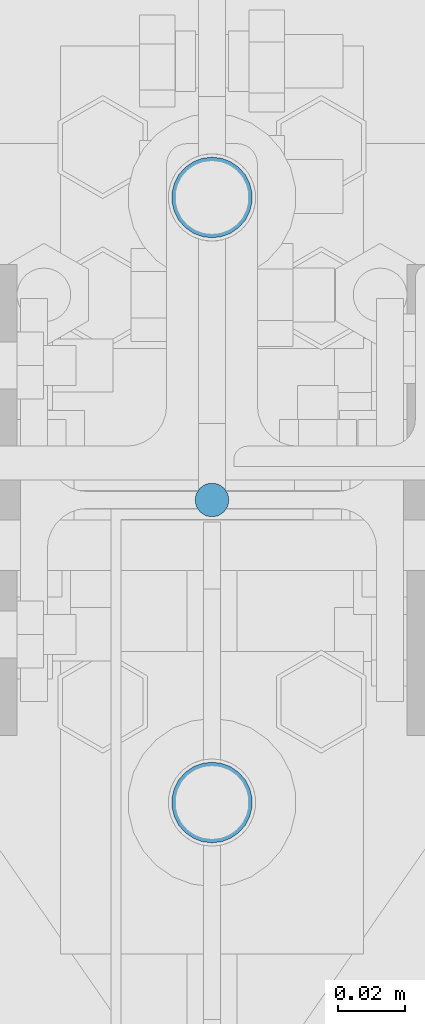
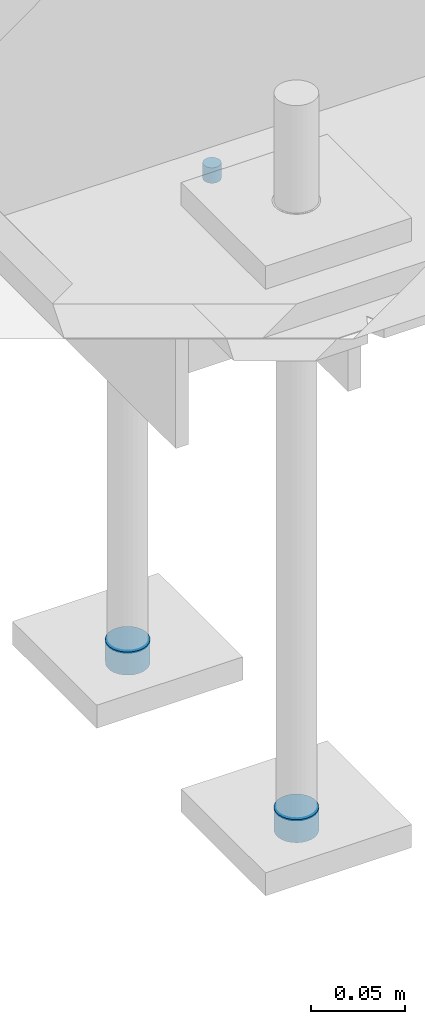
# One storey, part 220 of 362: 3 mechanical fasteners.
"""IFC2X3 building model written with IfcOpenShell, lengths in millimetres."""

import ifcopenshell
import ifcopenshell.guid

model = None  # the IFC model being written
_history = None  # IfcOwnerHistory: only IFC2X3 demands one
_inside = {}  # id of a spatial element -> (the spatial element, [elements in it])
_under = {}  # id of a project, library or spatial element -> (it, [spatial elements below it])
_declared = {}  # id of a project -> (the project, [libraries it declares])
_typed = {}  # id of a type object -> (the type object, [elements of that type])
_made_of = {}  # id of a material, layer set ... -> (it, [elements and type objects made of it])


def new_model(schema):
    """Start an empty IFC model of exactly this schema.

    Asked for "IFC4X3", IfcOpenShell would pick the latest addendum, in which some entities
    have other attributes; the version numbers below select the first issue.
    IFC2X3 requires an IfcOwnerHistory on every rooted entity: one is made here for all.
    """
    global model, _history
    if schema == "IFC4X3":
        model = ifcopenshell.file(schema_version=(4, 3, 0, 0))
    else:
        model = ifcopenshell.file(schema=schema)
    _inside.clear()
    _under.clear()
    _declared.clear()
    _typed.clear()
    _made_of.clear()
    _history = None
    if model.schema == "IFC2X3":
        org = make("IfcOrganization", Name="unknown")
        user = make(
            "IfcPersonAndOrganization",
            ThePerson=make("IfcPerson", FamilyName="unknown"),
            TheOrganization=org,
        )
        app = make(
            "IfcApplication",
            ApplicationDeveloper=org,
            Version="unknown",
            ApplicationFullName="unknown",
            ApplicationIdentifier="unknown",
        )
        _history = make(
            "IfcOwnerHistory",
            OwningUser=user,
            OwningApplication=app,
            ChangeAction="ADDED",
            CreationDate=0,
        )
    return model


def make(cls, **values):
    """One entity of the class cls with the attributes given. An attribute that is None is left unset."""
    return model.create_entity(
        cls, **{name: value for name, value in values.items() if value is not None}
    )


def rooted(cls, **values):
    """An entity with a GlobalId (a new one), such as an element, a storey or a relation."""
    return make(cls, GlobalId=ifcopenshell.guid.new(), OwnerHistory=_history, **values)


def si_unit(unit_type, name, prefix=None):
    """IfcSIUnit, for example si_unit("LENGTHUNIT", "METRE", prefix="MILLI")."""
    return make("IfcSIUnit", UnitType=unit_type, Prefix=prefix, Name=name)


def assignment(units):
    """IfcUnitAssignment: the units of a project."""
    return None if units is None else make("IfcUnitAssignment", Units=units)


def point(xyz):
    """IfcCartesianPoint."""
    return None if xyz is None else make("IfcCartesianPoint", Coordinates=xyz)


def direction(xyz):
    """IfcDirection."""
    return None if xyz is None else make("IfcDirection", DirectionRatios=xyz)


def frame(location, z_axis=None, x_axis=None):
    """IfcAxis2Placement3D, a coordinate frame: its origin and axes. An axis left out is left unset."""
    return make(
        "IfcAxis2Placement3D",
        Location=point(location),
        Axis=direction(z_axis),
        RefDirection=direction(x_axis),
    )


def frame_2d(location, x_axis=None):
    """IfcAxis2Placement2D, a coordinate frame in the plane: its origin and x axis."""
    return make(
        "IfcAxis2Placement2D", Location=point(location), RefDirection=direction(x_axis)
    )


def origin_with_axes():
    """The frame at (0, 0, 0) with the z axis (0, 0, 1) and the x axis (1, 0, 0) written out."""
    return frame((0.0, 0.0, 0.0), z_axis=(0.0, 0.0, 1.0), x_axis=(1.0, 0.0, 0.0))


def origin_2d_with_axis():
    """The frame at (0, 0) in the plane with the x axis (1, 0) written out."""
    return frame_2d((0.0, 0.0), x_axis=(1.0, 0.0))


def place(relative_to, where):
    """IfcLocalPlacement: puts the frame where relative to a parent placement (None: the world)."""
    return make(
        "IfcLocalPlacement", PlacementRelTo=relative_to, RelativePlacement=where
    )


def context(
    kind, dimensions, precision=None, world=None, true_north=None, identifier=None
):
    """IfcGeometricRepresentationContext, for example the 3D "Model" context."""
    return make(
        "IfcGeometricRepresentationContext",
        ContextIdentifier=identifier,
        ContextType=kind,
        CoordinateSpaceDimension=dimensions,
        Precision=precision,
        WorldCoordinateSystem=world,
        TrueNorth=true_north,
    )


def subcontext(parent, identifier, kind, view, scale=None):
    """IfcGeometricRepresentationSubContext, for example "Body" below "Model"."""
    return make(
        "IfcGeometricRepresentationSubContext",
        ContextIdentifier=identifier,
        ContextType=kind,
        ParentContext=parent,
        TargetScale=scale,
        TargetView=view,
    )


def project(units=None, contexts=None):
    """IfcProject with its units and contexts."""
    return rooted(
        "IfcProject",
        Name="project",
        RepresentationContexts=contexts,
        UnitsInContext=assignment(units),
    )


def spatial(cls, under=None, at=None, **own):
    """A site, building, storey or space (cls), placed at a placement, below another one or the project."""
    s = rooted(cls, ObjectPlacement=at, **own)
    if under is not None:
        _under.setdefault(under.id(), (under, []))[1].append(s)
    return s


def profile(cls, at=None, kind="AREA", **sizes):
    """A parametric profile (cls). Its sizes go by their IFC names, for example OverallWidth=200.0."""
    return make(cls, ProfileType=kind, Position=at, **sizes)


def circle(**sizes):
    """IfcCircleProfileDef."""
    return profile("IfcCircleProfileDef", **sizes)


def extrude(swept, where, along, depth):
    """IfcExtrudedAreaSolid: the profile swept, set in the frame where, extruded along a direction by depth."""
    return make(
        "IfcExtrudedAreaSolid",
        SweptArea=swept,
        Position=where,
        ExtrudedDirection=direction(along),
        Depth=depth,
    )


def shape(context_of_items, identifier, shape_type, items):
    """IfcShapeRepresentation: the items that make up one representation, for example the "Body"."""
    return make(
        "IfcShapeRepresentation",
        ContextOfItems=context_of_items,
        RepresentationIdentifier=identifier,
        RepresentationType=shape_type,
        Items=items,
    )


def source(mapping_origin, context_of_items, identifier, shape_type, items):
    """IfcRepresentationMap: a shape defined once, which mapped items show again and again."""
    return make(
        "IfcRepresentationMap",
        MappingOrigin=mapping_origin,
        MappedRepresentation=shape(context_of_items, identifier, shape_type, items),
    )


def transform(
    local_origin,
    x_axis=None,
    y_axis=None,
    z_axis=None,
    scale=None,
    scale2=None,
    scale3=None,
    uniform=True,
):
    """IfcCartesianTransformationOperator3D, or its non-uniform kind. x_axis, y_axis, z_axis: its Axis1, 2, 3."""
    if uniform:
        return make(
            "IfcCartesianTransformationOperator3D",
            Axis1=direction(x_axis),
            Axis2=direction(y_axis),
            LocalOrigin=point(local_origin),
            Scale=scale,
            Axis3=direction(z_axis),
        )
    return make(
        "IfcCartesianTransformationOperator3DnonUniform",
        Axis1=direction(x_axis),
        Axis2=direction(y_axis),
        LocalOrigin=point(local_origin),
        Scale=scale,
        Axis3=direction(z_axis),
        Scale2=scale2,
        Scale3=scale3,
    )


def mapped(mapping_source, mapping_target):
    """IfcMappedItem: shows the shape of a source again, moved by a transform."""
    return make(
        "IfcMappedItem", MappingSource=mapping_source, MappingTarget=mapping_target
    )


def material(Name=None, Category=None):
    """IfcMaterial."""
    return make("IfcMaterial", Name=Name, Category=Category)


def made_of(thing, what):
    """Note that an element or type object is made of a material, layer set ...; save() writes the relation."""
    if what is not None:
        _made_of.setdefault(what.id(), (what, []))[1].append(thing)
    return thing


def type_object(cls, material=None, **own):
    """A type object (cls), such as IfcWallType, which elements share."""
    return made_of(rooted(cls, **own), material)


def element(
    cls,
    number,
    at=None,
    inside=None,
    cuts=None,
    type_object=None,
    material=None,
    context=None,
    identifier="Body",
    shape_type=None,
    held_by="IfcProductDefinitionShape",
    body=None,
    shapes=None,
    **own,
):
    """One element of the class cls, such as IfcWall. Its Tag is "e" and its number.

    at: its placement. inside: the storey or other place that contains it. cuts: it is an
    opening in that element (IfcRelVoidsElement). A single representation is given by context,
    identifier, shape_type and body (its items); several are given by shapes. held_by: the class
    of the entity that holds the representations. save() writes the other relations.
    """
    e = rooted(cls, Tag="e%d" % number, ObjectPlacement=at, **own)
    if body is not None:
        shapes = [shape(context, identifier, shape_type, body)]
    if shapes is not None:
        e.Representation = make(held_by, Representations=shapes)
    if inside is not None:
        _inside.setdefault(inside.id(), (inside, []))[1].append(e)
    if cuts is not None:
        rooted(
            "IfcRelVoidsElement", RelatingBuildingElement=cuts, RelatedOpeningElement=e
        )
    if type_object is not None:
        _typed.setdefault(type_object.id(), (type_object, []))[1].append(e)
    return made_of(e, material)


def aggregate(whole, parts):
    """IfcRelAggregates: a whole, such as a stair, and the parts it consists of."""
    return rooted("IfcRelAggregates", RelatingObject=whole, RelatedObjects=parts)


def save(model, path):
    """Write the relations noted so far, then the file.

    IfcRelAggregates (storeys below a building ...), IfcRelContainedInSpatialStructure (elements
    in a storey), IfcRelDefinesByType, IfcRelAssociatesMaterial and IfcRelDeclares: one each for
    every whole, place, type object, material and project.
    """
    for whole, parts in _under.values():
        aggregate(whole, parts)
    for where, things in _inside.values():
        rooted(
            "IfcRelContainedInSpatialStructure",
            RelatedElements=things,
            RelatingStructure=where,
        )
    for kind, things in _typed.values():
        rooted("IfcRelDefinesByType", RelatedObjects=things, RelatingType=kind)
    for what, things in _made_of.values():
        rooted("IfcRelAssociatesMaterial", RelatedObjects=things, RelatingMaterial=what)
    for by, libraries in _declared.values():
        rooted("IfcRelDeclares", RelatingContext=by, RelatedDefinitions=libraries)
    model.write(path)


model = new_model("IFC2X3")

# Units and contexts
model_context = context("Model", 3, precision=1e-05, world=origin_with_axes())
body_context = subcontext(model_context, "Body", "Model", "MODEL_VIEW")
ifc_project = project(units=[si_unit("LENGTHUNIT", "METRE", prefix="MILLI"), si_unit("AREAUNIT", "SQUARE_METRE"), si_unit("VOLUMEUNIT", "CUBIC_METRE"), si_unit("MASSUNIT", "GRAM", prefix="KILO"), si_unit("TIMEUNIT", "SECOND"), si_unit("PLANEANGLEUNIT", "RADIAN"), si_unit("SOLIDANGLEUNIT", "STERADIAN"), si_unit("THERMODYNAMICTEMPERATUREUNIT", "DEGREE_CELSIUS"), si_unit("LUMINOUSINTENSITYUNIT", "LUMEN")], contexts=[model_context])

# Site, building, storey
site_placement = place(None, origin_with_axes())
site = spatial("IfcSite", under=ifc_project, at=site_placement, Name="Undefined", CompositionType="ELEMENT")
building_placement = place(site_placement, origin_with_axes())
building = spatial("IfcBuilding", under=site, at=building_placement, Name="Undefined", CompositionType="ELEMENT")
storey_placement = place(building_placement, origin_with_axes())
storey = spatial("IfcBuildingStorey", under=building, at=storey_placement, Name="Undefined", CompositionType="ELEMENT", Elevation=0.0)

# Mechanical fasteners
ifc_material = material(Name="6.8")
mechanical_fastener_type = type_object("IfcMechanicalFastenerType", Name="Bolt assembly")
shared_shape_1 = source(origin_with_axes(), body_context, "Body", "SweptSolid", [
    extrude(circle(Radius=12.0, at=origin_2d_with_axis()), frame((0.0, -14.999999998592, 0.0), z_axis=(0.0, 1.0, 0.0), x_axis=(1.0, 0.0, 0.0)), (0.0, 0.0, 1.0), 15.1),
])
for number, where, z_axis, x_axis, name in (
    (1, (12680.0, -90.0028495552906, -580.0), (1.0, 0.0, 0.0), (0.0, -1.0, 0.0), "Bolt assembly"),
    (2, (12680.0, 89.9971504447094, -580.0), (1.0, 0.0, 0.0), (0.0, -1.0, 0.0), "Bolt assembly"),
):
    element("IfcMechanicalFastener", number, at=place(storey_placement, frame(where, z_axis=z_axis, x_axis=x_axis)), inside=storey, type_object=mechanical_fastener_type, material=ifc_material, Name=name, NominalDiameter=22.0, NominalLength=15.0, context=body_context, shape_type="MappedRepresentation", body=[
        mapped(shared_shape_1, transform((0.0, 0.0, 0.0))),
    ])
shared_shape_2 = source(origin_with_axes(), body_context, "Body", "SweptSolid", [
    extrude(circle(Radius=5.0, at=origin_2d_with_axis()), frame((0.0, 0.0, 0.0), z_axis=(0.0, 1.0, 0.0), x_axis=(1.0, 0.0, 0.0)), (0.0, 0.0, 1.0), 10.1),
])
mechanical_fastener_placement = place(storey_placement, frame((12680.0, 7.34107743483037e-08, -200.0), z_axis=(0.0, 1.0, 0.0), x_axis=(1.0, 0.0, 0.0)))
element("IfcMechanicalFastener", 3, at=mechanical_fastener_placement, inside=storey, type_object=mechanical_fastener_type, material=ifc_material, Name="Bolt assembly", NominalDiameter=8.0, NominalLength=10.0, context=body_context, shape_type="MappedRepresentation", body=[
    mapped(shared_shape_2, transform((0.0, 0.0, 0.0))),
])

save(model, "model.ifc")
